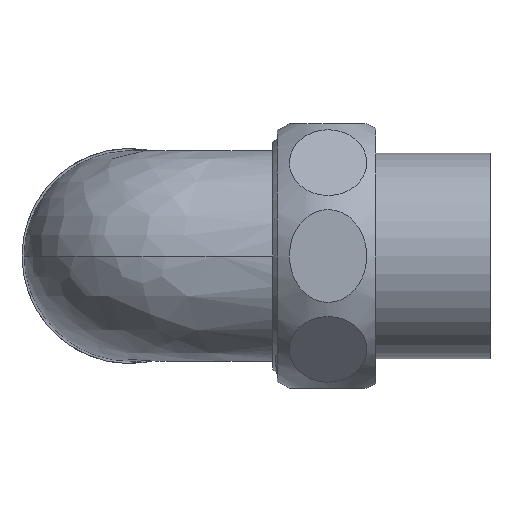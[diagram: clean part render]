
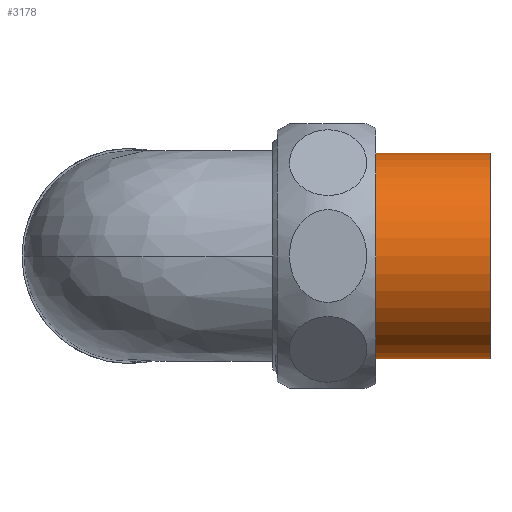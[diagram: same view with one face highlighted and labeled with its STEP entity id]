
A CAD part, front view. The second image highlights one B-rep face of the part: STEP entity #3178.
In plain terms, the highlighted cylindrical face has radius 22.95 mm (diameter 45.9 mm), a full revolution.
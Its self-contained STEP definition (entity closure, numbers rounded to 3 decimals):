
#3136=CARTESIAN_POINT('',(9.,22.95,0.0));
#3137=VERTEX_POINT('',#3136);
#3138=CARTESIAN_POINT('',(9.,0.,0.0));
#3139=DIRECTION('',(1.0,0.0,0.0));
#3140=DIRECTION('',(0.0,-1.0,0.0));
#3141=AXIS2_PLACEMENT_3D('',#3138,#3139,#3140);
#3142=CIRCLE('',#3141,22.95);
#3143=EDGE_CURVE('',#3137,#3137,#3142,.T.);
#3159=CARTESIAN_POINT('',(-5.,0.,0.0));
#3160=DIRECTION('',(1.0,0.,0.0));
#3161=DIRECTION('',(0.0,1.0,0.0));
#3162=AXIS2_PLACEMENT_3D('',#3159,#3160,#3161);
#3163=CYLINDRICAL_SURFACE('',#3162,22.95);
#3164=CARTESIAN_POINT('',(-20.,22.95,0.0));
#3165=VERTEX_POINT('',#3164);
#3166=CARTESIAN_POINT('',(-20.,0.,0.0));
#3167=DIRECTION('',(1.0,0.0,0.0));
#3168=DIRECTION('',(0.0,1.0,0.0));
#3169=AXIS2_PLACEMENT_3D('',#3166,#3167,#3168);
#3170=CIRCLE('',#3169,22.95);
#3171=EDGE_CURVE('',#3165,#3165,#3170,.T.);
#3172=ORIENTED_EDGE('',*,*,#3171,.T.);
#3173=EDGE_LOOP('',(#3172));
#3174=FACE_OUTER_BOUND('',#3173,.T.);
#3175=ORIENTED_EDGE('',*,*,#3143,.F.);
#3176=EDGE_LOOP('',(#3175));
#3177=FACE_BOUND('',#3176,.T.);
#3178=ADVANCED_FACE('',(#3174,#3177),#3163,.T.);
